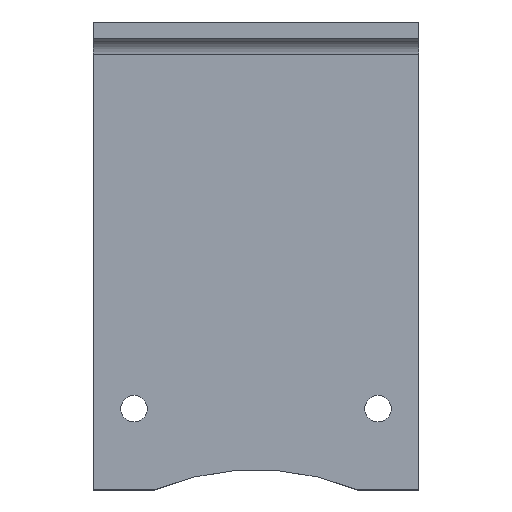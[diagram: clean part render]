
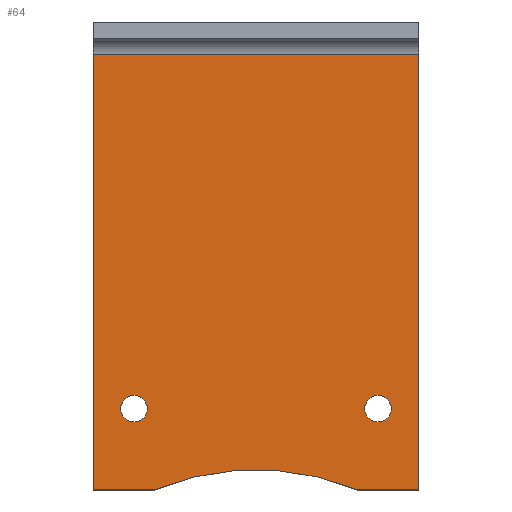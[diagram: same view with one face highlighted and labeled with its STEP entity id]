
A CAD part, top view. The second image highlights one B-rep face of the part: STEP entity #64.
In plain terms, the highlighted planar face has unit normal (0, 0, 1).
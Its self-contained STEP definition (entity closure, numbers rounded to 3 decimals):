
#64=ADVANCED_FACE('',(#168,#170,#172),#174,.T.);
#168=FACE_BOUND('',#169,.T.);
#169=EDGE_LOOP('',(#284));
#170=FACE_BOUND('',#171,.T.);
#171=EDGE_LOOP('',(#285));
#172=FACE_OUTER_BOUND('',#173,.T.);
#173=EDGE_LOOP('',(#286,#287,#288,#289,#290,#291));
#174=PLANE('',#175);
#175=AXIS2_PLACEMENT_3D('',#176,#177,#178);
#176=CARTESIAN_POINT('',(0.,0.,0.));
#177=DIRECTION('',(0.,0.,1.));
#178=DIRECTION('',(1.,0.,0.));
#284=ORIENTED_EDGE('',*,*,#353,.T.);
#285=ORIENTED_EDGE('',*,*,#354,.T.);
#286=ORIENTED_EDGE('',*,*,#342,.T.);
#287=ORIENTED_EDGE('',*,*,#355,.T.);
#288=ORIENTED_EDGE('',*,*,#356,.T.);
#289=ORIENTED_EDGE('',*,*,#357,.T.);
#290=ORIENTED_EDGE('',*,*,#358,.T.);
#291=ORIENTED_EDGE('',*,*,#359,.T.);
#342=EDGE_CURVE('',#403,#401,#404,.T.);
#353=EDGE_CURVE('',#421,#421,#422,.F.);
#354=EDGE_CURVE('',#423,#423,#424,.F.);
#355=EDGE_CURVE('',#401,#425,#426,.T.);
#356=EDGE_CURVE('',#425,#427,#428,.T.);
#357=EDGE_CURVE('',#427,#429,#430,.F.);
#358=EDGE_CURVE('',#429,#431,#432,.T.);
#359=EDGE_CURVE('',#431,#403,#433,.T.);
#401=VERTEX_POINT('',#523);
#403=VERTEX_POINT('',#528);
#404=LINE('',#529,#530);
#421=VERTEX_POINT('',#572);
#422=CIRCLE('',#573,3.25);
#423=VERTEX_POINT('',#577);
#424=CIRCLE('',#578,3.25);
#425=VERTEX_POINT('',#582);
#426=LINE('',#583,#584);
#427=VERTEX_POINT('',#586);
#428=LINE('',#587,#588);
#429=VERTEX_POINT('',#590);
#430=CIRCLE('',#591,65.);
#431=VERTEX_POINT('',#595);
#432=LINE('',#596,#597);
#433=LINE('',#599,#600);
#523=CARTESIAN_POINT('',(-40.,107.,0.));
#528=CARTESIAN_POINT('',(40.,107.,0.));
#529=CARTESIAN_POINT('',(40.,107.,0.));
#530=VECTOR('',#531,1.);
#531=DIRECTION('',(-1.,0.,0.));
#572=CARTESIAN_POINT('',(-26.75,20.,0.));
#573=AXIS2_PLACEMENT_3D('',#574,#575,#576);
#574=CARTESIAN_POINT('',(-30.,20.,0.));
#575=DIRECTION('',(0.,0.,1.));
#576=DIRECTION('',(1.,0.,0.));
#577=CARTESIAN_POINT('',(33.25,20.,0.));
#578=AXIS2_PLACEMENT_3D('',#579,#580,#581);
#579=CARTESIAN_POINT('',(30.,20.,0.));
#580=DIRECTION('',(0.,0.,1.));
#581=DIRECTION('',(1.,0.,0.));
#582=CARTESIAN_POINT('',(-40.,0.,0.));
#583=CARTESIAN_POINT('',(-40.,107.,0.));
#584=VECTOR('',#585,1.);
#585=DIRECTION('',(0.,-1.,0.));
#586=CARTESIAN_POINT('',(-25.,0.,0.));
#587=CARTESIAN_POINT('',(-40.,0.,0.));
#588=VECTOR('',#589,1.);
#589=DIRECTION('',(1.,0.,0.));
#590=CARTESIAN_POINT('',(25.,0.,0.));
#591=AXIS2_PLACEMENT_3D('',#592,#593,#594);
#592=CARTESIAN_POINT('',(0.,-60.,0.));
#593=DIRECTION('',(0.,0.,1.));
#594=DIRECTION('',(0.385,0.923,0.));
#595=CARTESIAN_POINT('',(40.,0.,0.));
#596=CARTESIAN_POINT('',(25.,0.,0.));
#597=VECTOR('',#598,1.);
#598=DIRECTION('',(1.,0.,0.));
#599=CARTESIAN_POINT('',(40.,0.,0.));
#600=VECTOR('',#601,1.);
#601=DIRECTION('',(0.,1.,0.));
